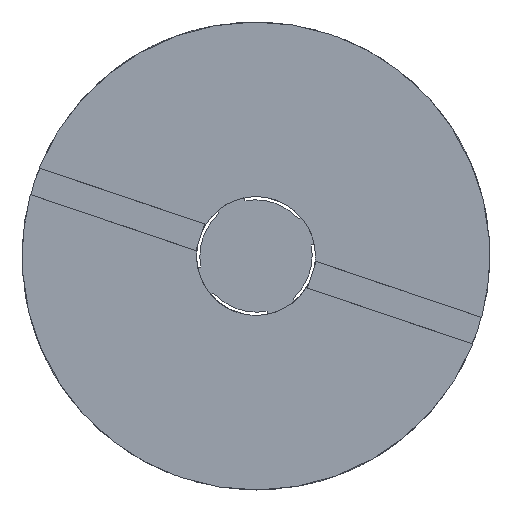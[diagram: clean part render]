
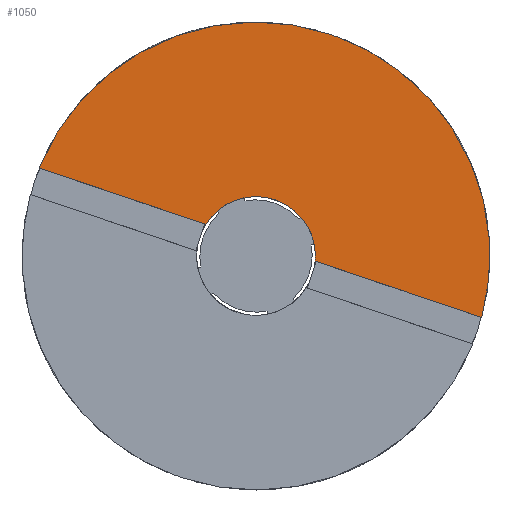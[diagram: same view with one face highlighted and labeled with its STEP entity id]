
A CAD part, front view. The second image highlights one B-rep face of the part: STEP entity #1050.
In plain terms, the highlighted planar face has unit normal (0, -1, 0).
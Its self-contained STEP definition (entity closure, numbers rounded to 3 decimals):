
#69 = DIRECTION ( 'NONE',  ( 0., -1., 0. ) ) ;
#126 = LINE ( 'NONE', #1042, #340 ) ;
#276 = EDGE_CURVE ( 'NONE', #2276, #298, #3035, .T. ) ;
#298 = VERTEX_POINT ( 'NONE', #2493 ) ;
#308 = AXIS2_PLACEMENT_3D ( 'NONE', #1828, #3132, #330 ) ;
#312 = DIRECTION ( 'NONE',  ( 0., -1., 0. ) ) ;
#330 = DIRECTION ( 'NONE',  ( 1., 0., 0. ) ) ;
#340 = VECTOR ( 'NONE', #3149, 1000. ) ;
#360 = VERTEX_POINT ( 'NONE', #922 ) ;
#412 = DIRECTION ( 'NONE',  ( -0.32, 0., -0.947 ) ) ;
#422 = CIRCLE ( 'NONE', #3806, 3.175 ) ;
#518 = CARTESIAN_POINT ( 'NONE',  ( -17.491, -19.412, 48.087 ) ) ;
#544 = ORIENTED_EDGE ( 'NONE', *, *, #1890, .T. ) ;
#645 = ORIENTED_EDGE ( 'NONE', *, *, #1965, .F. ) ;
#711 = CARTESIAN_POINT ( 'NONE',  ( -14.328, -19.412, 47.811 ) ) ;
#806 = DIRECTION ( 'NONE',  ( -0.32, 0., -0.947 ) ) ;
#922 = CARTESIAN_POINT ( 'NONE',  ( -13.494, -19.412, 59.931 ) ) ;
#960 = AXIS2_PLACEMENT_3D ( 'NONE', #3758, #1016, #412 ) ;
#962 = DIRECTION ( 'NONE',  ( 0.947, 0., -0.32 ) ) ;
#976 = VECTOR ( 'NONE', #962, 1000. ) ;
#1016 = DIRECTION ( 'NONE',  ( 0., -1., 0. ) ) ;
#1018 = CIRCLE ( 'NONE', #308, 3.175 ) ;
#1033 = EDGE_CURVE ( 'NONE', #1745, #2526, #1018, .T. ) ;
#1042 = CARTESIAN_POINT ( 'NONE',  ( -17.251, -19.412, 48.798 ) ) ;
#1050 = ADVANCED_FACE ( 'NONE', ( #3112 ), #3068, .T. ) ;
#1098 = ORIENTED_EDGE ( 'NONE', *, *, #3480, .T. ) ;
#1417 = DIRECTION ( 'NONE',  ( 0., -1., 0. ) ) ;
#1433 = ORIENTED_EDGE ( 'NONE', *, *, #3203, .T. ) ;
#1550 = DIRECTION ( 'NONE',  ( -1., 0., 0. ) ) ;
#1579 = CIRCLE ( 'NONE', #960, 12.5 ) ;
#1594 = CARTESIAN_POINT ( 'NONE',  ( -17.491, -19.412, 48.087 ) ) ;
#1654 = CARTESIAN_POINT ( 'NONE',  ( -14.316, -19.412, 48.087 ) ) ;
#1745 = VERTEX_POINT ( 'NONE', #711 ) ;
#1828 = CARTESIAN_POINT ( 'NONE',  ( -17.491, -19.412, 48.087 ) ) ;
#1890 = EDGE_CURVE ( 'NONE', #3347, #360, #2199, .T. ) ;
#1965 = EDGE_CURVE ( 'NONE', #2526, #298, #422, .T. ) ;
#2125 = CARTESIAN_POINT ( 'NONE',  ( -17.251, -19.412, 48.798 ) ) ;
#2199 = CIRCLE ( 'NONE', #2656, 12.5 ) ;
#2276 = VERTEX_POINT ( 'NONE', #3718 ) ;
#2493 = CARTESIAN_POINT ( 'NONE',  ( -20.175, -19.412, 49.785 ) ) ;
#2526 = VERTEX_POINT ( 'NONE', #1654 ) ;
#2604 = ORIENTED_EDGE ( 'NONE', *, *, #276, .T. ) ;
#2656 = AXIS2_PLACEMENT_3D ( 'NONE', #518, #1417, #806 ) ;
#2676 = AXIS2_PLACEMENT_3D ( 'NONE', #1594, #69, #1550 ) ;
#2879 = ORIENTED_EDGE ( 'NONE', *, *, #1033, .F. ) ;
#3035 = LINE ( 'NONE', #2125, #976 ) ;
#3068 = PLANE ( 'NONE',  #2676 ) ;
#3112 = FACE_OUTER_BOUND ( 'NONE', #3928, .T. ) ;
#3132 = DIRECTION ( 'NONE',  ( 0., -1., 0. ) ) ;
#3149 = DIRECTION ( 'NONE',  ( 0.947, 0., -0.32 ) ) ;
#3203 = EDGE_CURVE ( 'NONE', #360, #2276, #1579, .T. ) ;
#3257 = CARTESIAN_POINT ( 'NONE',  ( -17.491, -19.412, 48.087 ) ) ;
#3347 = VERTEX_POINT ( 'NONE', #3406 ) ;
#3371 = DIRECTION ( 'NONE',  ( 1., 0., 0. ) ) ;
#3406 = CARTESIAN_POINT ( 'NONE',  ( -5.429, -19.412, 44.807 ) ) ;
#3480 = EDGE_CURVE ( 'NONE', #1745, #3347, #126, .T. ) ;
#3718 = CARTESIAN_POINT ( 'NONE',  ( -29.074, -19.412, 52.788 ) ) ;
#3758 = CARTESIAN_POINT ( 'NONE',  ( -17.491, -19.412, 48.087 ) ) ;
#3806 = AXIS2_PLACEMENT_3D ( 'NONE', #3257, #312, #3371 ) ;
#3928 = EDGE_LOOP ( 'NONE', ( #2879, #1098, #544, #1433, #2604, #645 ) ) ;
